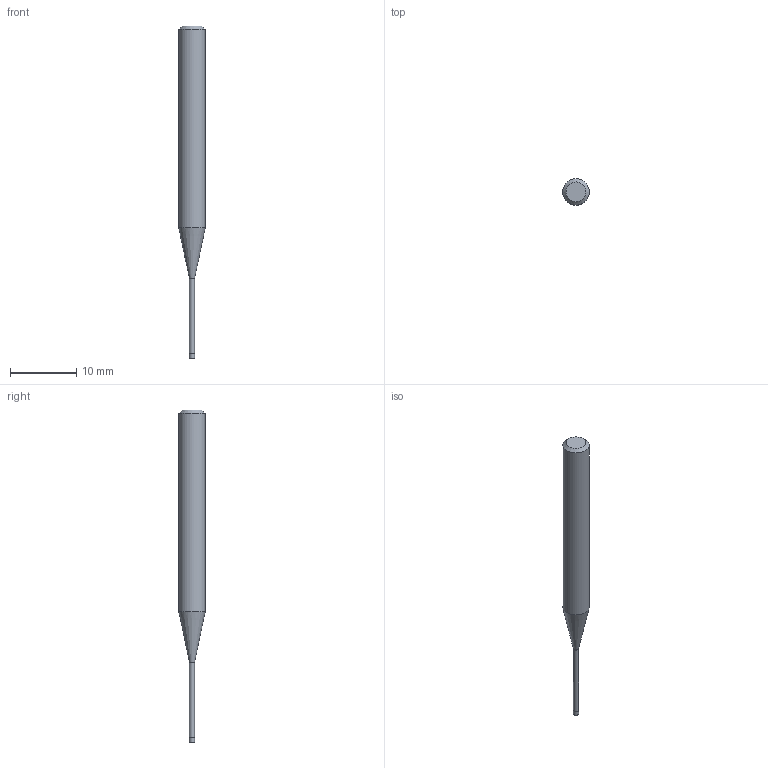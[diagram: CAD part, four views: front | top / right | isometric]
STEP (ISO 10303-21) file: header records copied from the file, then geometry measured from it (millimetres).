
FILE_DESCRIPTION((''),'2;1');
FILE_NAME('C:\Users\nsx150\AppData\Local\Temp\Mastercam 2021\RJ5U8K7RMU\TEMP.step','2021-04-21T16:40:50',(''),(''),'STEP Write','Mastercam 2021 ... CNC Software, Inc.','');
FILE_SCHEMA(('AUTOMOTIVE_DESIGN'));
Length unit declared in the file: millimetre
Products named in the file (1): None
Bounding box: 4 x 4 x 50 mm (x, y, z)
Volume: 424.9 mm3; surface area: 478.8 mm2
Topology: 2 solids, 2 shells, 9 faces, 12 edges, 7 vertices
Faces by surface type: plane 4, cylinder 3, cone 2
Full cylindrical faces by diameter (mm): 0.76 x1, 0.8 x1, 4 x1
Entity records: 211 total; most frequent: DIRECTION 36, CARTESIAN_POINT 25, AXIS2_PLACEMENT_3D 18, ORIENTED_EDGE 14, EDGE_LOOP 14, STYLED_ITEM 12, ADVANCED_FACE 9, FACE_BOUND 8
